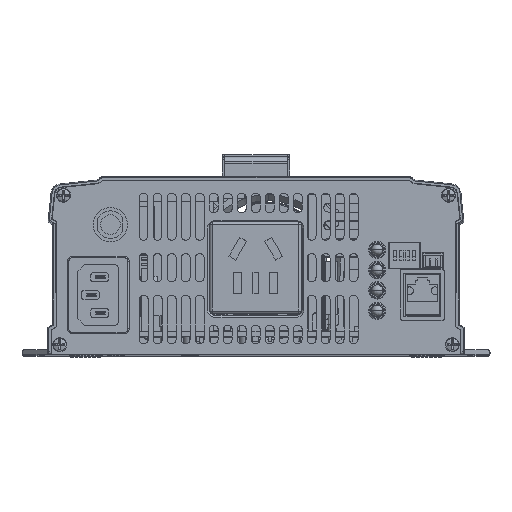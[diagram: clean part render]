
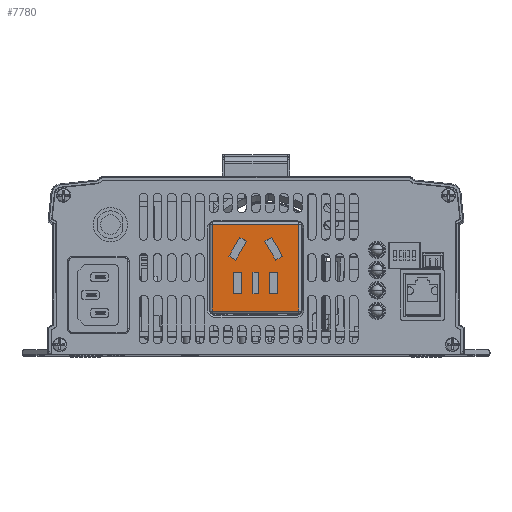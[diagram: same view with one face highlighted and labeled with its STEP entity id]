
A CAD part, top view. The second image highlights one B-rep face of the part: STEP entity #7780.
In plain terms, the highlighted planar face has unit normal (0, 0, 1).
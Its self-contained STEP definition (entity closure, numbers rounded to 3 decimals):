
#2430=CARTESIAN_POINT('',(2185.376,78.306,362.1));
#2440=VERTEX_POINT('',#2430);
#2920=CARTESIAN_POINT('',(2151.376,78.306,362.1));
#2930=VERTEX_POINT('',#2920);
#3160=CARTESIAN_POINT('',(2178.654,60.22,362.1));
#3170=VERTEX_POINT('',#3160);
#3340=CARTESIAN_POINT('',(2178.654,62.42,362.1));
#3350=VERTEX_POINT('',#3340);
#3380=CARTESIAN_POINT('',(2178.654,54.306,362.1));
#3390=DIRECTION('',(0.,-1.,0.));
#3400=VECTOR('',#3390,1.);
#3410=LINE('',#3380,#3400);
#3420=EDGE_CURVE('',#3350,#3170,#3410,.T.);
#3650=CARTESIAN_POINT('',(2170.098,62.42,362.1));
#3660=VERTEX_POINT('',#3650);
#3690=CARTESIAN_POINT('',(2106.876,62.42,362.1));
#3700=DIRECTION('',(1.,0.,0.));
#3710=VECTOR('',#3700,1.);
#3720=LINE('',#3690,#3710);
#3730=EDGE_CURVE('',#3660,#3350,#3720,.T.);
#3960=CARTESIAN_POINT('',(2170.098,60.22,362.1));
#3970=VERTEX_POINT('',#3960);
#4000=CARTESIAN_POINT('',(2170.098,54.306,362.1));
#4010=DIRECTION('',(0.,1.,0.));
#4020=VECTOR('',#4010,1.);
#4030=LINE('',#4000,#4020);
#4040=EDGE_CURVE('',#3970,#3660,#4030,.T.);
#4220=CARTESIAN_POINT('',(2106.876,60.22,362.1));
#4230=DIRECTION('',(-1.,0.,0.));
#4240=VECTOR('',#4230,1.);
#4250=LINE('',#4220,#4240);
#4260=EDGE_CURVE('',#3170,#3970,#4250,.T.);
#6010=CARTESIAN_POINT('',(2106.876,54.306,362.1));
#6020=DIRECTION('',(0.,0.,1.));
#6030=DIRECTION('',(1.,0.,0.));
#6040=AXIS2_PLACEMENT_3D('',#6010,#6020,#6030);
#6050=PLANE('',#6040);
#6060=ORIENTED_EDGE('',*,*,#3730,.T.);
#6070=ORIENTED_EDGE('',*,*,#4040,.T.);
#6080=ORIENTED_EDGE('',*,*,#4260,.T.);
#6090=ORIENTED_EDGE('',*,*,#3420,.T.);
#6100=EDGE_LOOP('',(#6090,#6080,#6070,#6060));
#6110=FACE_BOUND('',#6100,.T.);
#6120=CARTESIAN_POINT('',(2101.876,86.452,362.1));
#6130=DIRECTION('',(-0.867,0.499,0.));
#6140=VECTOR('',#6130,1.);
#6150=LINE('',#6120,#6140);
#6160=CARTESIAN_POINT('',(2163.839,50.781,362.1));
#6170=VERTEX_POINT('',#6160);
#6180=CARTESIAN_POINT('',(2156.42,55.052,362.1));
#6190=VERTEX_POINT('',#6180);
#6200=EDGE_CURVE('',#6170,#6190,#6150,.T.);
#6210=ORIENTED_EDGE('',*,*,#6200,.T.);
#6220=CARTESIAN_POINT('',(2165.867,54.306,362.1));
#6230=DIRECTION('',(-0.499,-0.867,0.));
#6240=VECTOR('',#6230,1.);
#6250=LINE('',#6220,#6240);
#6260=CARTESIAN_POINT('',(2165.379,53.457,362.1));
#6270=VERTEX_POINT('',#6260);
#6280=EDGE_CURVE('',#6270,#6170,#6250,.T.);
#6290=ORIENTED_EDGE('',*,*,#6280,.T.);
#6300=CARTESIAN_POINT('',(2101.876,90.204,362.1));
#6310=DIRECTION('',(0.866,-0.501,0.));
#6320=VECTOR('',#6310,1.);
#6330=LINE('',#6300,#6320);
#6340=CARTESIAN_POINT('',(2157.973,57.742,362.1));
#6350=VERTEX_POINT('',#6340);
#6360=EDGE_CURVE('',#6350,#6270,#6330,.T.);
#6370=ORIENTED_EDGE('',*,*,#6360,.T.);
#6380=CARTESIAN_POINT('',(2155.99,54.306,362.1));
#6390=DIRECTION('',(0.5,0.866,0.));
#6400=VECTOR('',#6390,1.);
#6410=LINE('',#6380,#6400);
#6420=EDGE_CURVE('',#6190,#6350,#6410,.T.);
#6430=ORIENTED_EDGE('',*,*,#6420,.T.);
#6440=EDGE_LOOP('',(#6430,#6370,#6290,#6210));
#6450=FACE_BOUND('',#6440,.T.);
#6460=CARTESIAN_POINT('',(2164.112,54.306,362.1));
#6470=DIRECTION('',(-0.502,0.865,0.));
#6480=VECTOR('',#6470,1.);
#6490=LINE('',#6460,#6480);
#6500=CARTESIAN_POINT('',(2157.973,64.884,362.1));
#6510=VERTEX_POINT('',#6500);
#6520=CARTESIAN_POINT('',(2156.42,67.561,362.1));
#6530=VERTEX_POINT('',#6520);
#6540=EDGE_CURVE('',#6510,#6530,#6490,.T.);
#6550=ORIENTED_EDGE('',*,*,#6540,.T.);
#6560=CARTESIAN_POINT('',(2101.876,32.528,362.1));
#6570=DIRECTION('',(-0.866,-0.5,0.));
#6580=VECTOR('',#6570,1.);
#6590=LINE('',#6560,#6580);
#6600=CARTESIAN_POINT('',(2165.379,69.155,362.1));
#6610=VERTEX_POINT('',#6600);
#6620=EDGE_CURVE('',#6610,#6510,#6590,.T.);
#6630=ORIENTED_EDGE('',*,*,#6620,.T.);
#6640=CARTESIAN_POINT('',(2173.918,54.306,362.1));
#6650=DIRECTION('',(0.499,-0.867,0.));
#6660=VECTOR('',#6650,1.);
#6670=LINE('',#6640,#6660);
#6680=CARTESIAN_POINT('',(2163.839,71.832,362.1));
#6690=VERTEX_POINT('',#6680);
#6700=EDGE_CURVE('',#6690,#6610,#6670,.T.);
#6710=ORIENTED_EDGE('',*,*,#6700,.T.);
#6720=CARTESIAN_POINT('',(2101.876,36.158,362.1));
#6730=DIRECTION('',(0.867,0.499,0.));
#6740=VECTOR('',#6730,1.);
#6750=LINE('',#6720,#6740);
#6760=EDGE_CURVE('',#6530,#6690,#6750,.T.);
#6770=ORIENTED_EDGE('',*,*,#6760,.T.);
#6780=EDGE_LOOP('',(#6770,#6710,#6630,#6550));
#6790=FACE_BOUND('',#6780,.T.);
#6800=CARTESIAN_POINT('',(2170.098,54.848,362.1));
#6810=DIRECTION('',(0.,1.,0.));
#6820=VECTOR('',#6810,1.);
#6830=LINE('',#6800,#6820);
#6840=CARTESIAN_POINT('',(2170.098,66.798,362.1));
#6850=VERTEX_POINT('',#6840);
#6860=CARTESIAN_POINT('',(2170.098,69.988,362.1));
#6870=VERTEX_POINT('',#6860);
#6880=EDGE_CURVE('',#6850,#6870,#6830,.T.);
#6890=ORIENTED_EDGE('',*,*,#6880,.T.);
#6900=CARTESIAN_POINT('',(2104.473,66.798,362.1));
#6910=DIRECTION('',(-1.,0.,0.));
#6920=VECTOR('',#6910,1.);
#6930=LINE('',#6900,#6920);
#6940=CARTESIAN_POINT('',(2178.654,66.798,362.1));
#6950=VERTEX_POINT('',#6940);
#6960=EDGE_CURVE('',#6950,#6850,#6930,.T.);
#6970=ORIENTED_EDGE('',*,*,#6960,.T.);
#6980=CARTESIAN_POINT('',(2178.654,54.848,362.1));
#6990=DIRECTION('',(0.,-1.,0.));
#7000=VECTOR('',#6990,1.);
#7010=LINE('',#6980,#7000);
#7020=CARTESIAN_POINT('',(2178.654,69.988,362.1));
#7030=VERTEX_POINT('',#7020);
#7040=EDGE_CURVE('',#7030,#6950,#7010,.T.);
#7050=ORIENTED_EDGE('',*,*,#7040,.T.);
#7060=CARTESIAN_POINT('',(2104.473,69.988,362.1));
#7070=DIRECTION('',(1.,0.,0.));
#7080=VECTOR('',#7070,1.);
#7090=LINE('',#7060,#7080);
#7100=EDGE_CURVE('',#6870,#7030,#7090,.T.);
#7110=ORIENTED_EDGE('',*,*,#7100,.T.);
#7120=EDGE_LOOP('',(#7110,#7050,#6970,#6890));
#7130=FACE_BOUND('',#7120,.T.);
#7140=CARTESIAN_POINT('',(2104.473,52.638,362.1));
#7150=DIRECTION('',(-1.,0.,0.));
#7160=VECTOR('',#7150,1.);
#7170=LINE('',#7140,#7160);
#7180=CARTESIAN_POINT('',(2178.654,52.638,362.1));
#7190=VERTEX_POINT('',#7180);
#7200=CARTESIAN_POINT('',(2170.098,52.638,362.1));
#7210=VERTEX_POINT('',#7200);
#7220=EDGE_CURVE('',#7190,#7210,#7170,.T.);
#7230=ORIENTED_EDGE('',*,*,#7220,.T.);
#7240=CARTESIAN_POINT('',(2178.654,53.779,362.1));
#7250=DIRECTION('',(0.,-1.,0.));
#7260=VECTOR('',#7250,1.);
#7270=LINE('',#7240,#7260);
#7280=CARTESIAN_POINT('',(2178.654,55.842,362.1));
#7290=VERTEX_POINT('',#7280);
#7300=EDGE_CURVE('',#7290,#7190,#7270,.T.);
#7310=ORIENTED_EDGE('',*,*,#7300,.T.);
#7320=CARTESIAN_POINT('',(2104.473,55.842,362.1));
#7330=DIRECTION('',(1.,0.,0.));
#7340=VECTOR('',#7330,1.);
#7350=LINE('',#7320,#7340);
#7360=CARTESIAN_POINT('',(2170.098,55.842,362.1));
#7370=VERTEX_POINT('',#7360);
#7380=EDGE_CURVE('',#7370,#7290,#7350,.T.);
#7390=ORIENTED_EDGE('',*,*,#7380,.T.);
#7400=CARTESIAN_POINT('',(2170.098,53.779,362.1));
#7410=DIRECTION('',(0.,1.,0.));
#7420=VECTOR('',#7410,1.);
#7430=LINE('',#7400,#7420);
#7440=EDGE_CURVE('',#7210,#7370,#7430,.T.);
#7450=ORIENTED_EDGE('',*,*,#7440,.T.);
#7460=EDGE_LOOP('',(#7450,#7390,#7310,#7230));
#7470=FACE_BOUND('',#7460,.T.);
#7480=CARTESIAN_POINT('',(2185.376,54.306,362.1));
#7490=DIRECTION('',(0.,-1.,0.));
#7500=VECTOR('',#7490,1.);
#7510=LINE('',#7480,#7500);
#7520=CARTESIAN_POINT('',(2185.376,44.306,362.1));
#7530=VERTEX_POINT('',#7520);
#7540=EDGE_CURVE('',#2440,#7530,#7510,.T.);
#7550=ORIENTED_EDGE('',*,*,#7540,.F.);
#7560=CARTESIAN_POINT('',(2106.876,44.306,362.1));
#7570=DIRECTION('',(-1.,0.,0.));
#7580=VECTOR('',#7570,1.);
#7590=LINE('',#7560,#7580);
#7600=CARTESIAN_POINT('',(2151.376,44.306,362.1));
#7610=VERTEX_POINT('',#7600);
#7620=EDGE_CURVE('',#7530,#7610,#7590,.T.);
#7630=ORIENTED_EDGE('',*,*,#7620,.F.);
#7640=CARTESIAN_POINT('',(2151.376,54.306,362.1));
#7650=DIRECTION('',(0.,1.,0.));
#7660=VECTOR('',#7650,1.);
#7670=LINE('',#7640,#7660);
#7680=EDGE_CURVE('',#7610,#2930,#7670,.T.);
#7690=ORIENTED_EDGE('',*,*,#7680,.F.);
#7700=CARTESIAN_POINT('',(2106.876,78.306,362.1));
#7710=DIRECTION('',(1.,0.,0.));
#7720=VECTOR('',#7710,1.);
#7730=LINE('',#7700,#7720);
#7740=EDGE_CURVE('',#2930,#2440,#7730,.T.);
#7750=ORIENTED_EDGE('',*,*,#7740,.F.);
#7760=EDGE_LOOP('',(#7750,#7690,#7630,#7550));
#7770=FACE_OUTER_BOUND('',#7760,.T.);
#7780=ADVANCED_FACE('',(#6110,#6450,#6790,#7130,#7470,#7770),#6050,.T.);
